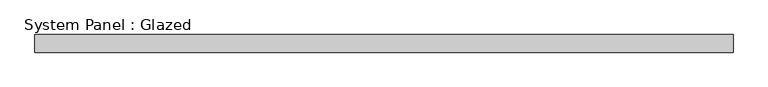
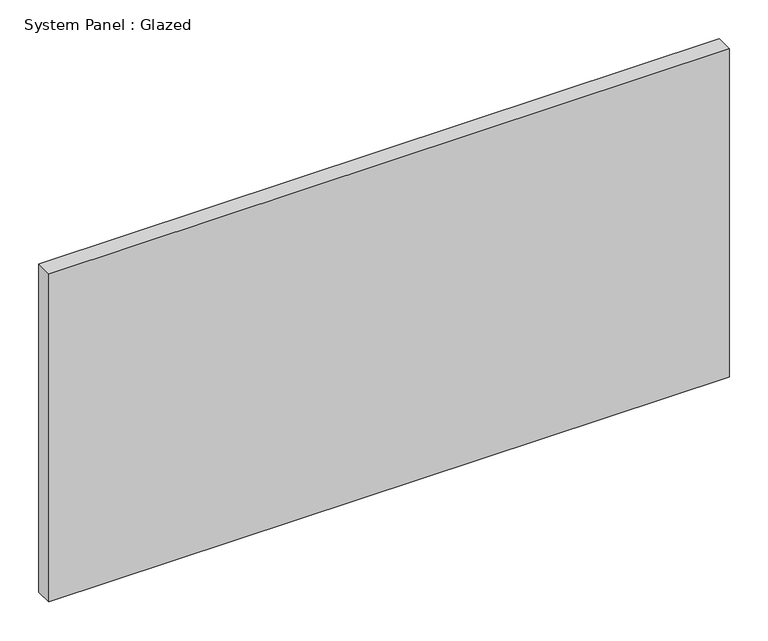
"""IFC4 building model written with IfcOpenShell, lengths in millimetres: plate geometry, System Panel : Glazed."""

from ifc_helpers import new_model, si_unit, origin, origin_with_axes, place, context, project, spatial, polyline, outline, extrude, source, transform, mapped, element, save


def system_panel_glazed_cd3e6447(model_context):
    return source(origin(), model_context, "Body", "SweptSolid", [
        extrude(outline(polyline([(503.9089253, -44.45), (-503.9089253, -44.45), (-503.9089253, -19.05), (503.9089253, -19.05), (503.9089253, -44.45)])), origin_with_axes(), (0.0, 0.0, 1.0), 514.35),
    ])


if __name__ == "__main__":
    model = new_model("IFC4")
    model_context = context("Model", 3, world=origin())
    ifc_project = project(units=[si_unit("LENGTHUNIT", "METRE", prefix="MILLI")], contexts=[model_context])
    site = spatial("IfcSite", under=ifc_project)
    building = spatial("IfcBuilding", under=site)
    placement = place(None, origin())
    system_panel_glazed_shape = system_panel_glazed_cd3e6447(model_context)
    element("IfcPlate", 1, ObjectType="System Panel : Glazed", at=placement, inside=building, context=model_context, shape_type="MappedRepresentation", body=[
        mapped(system_panel_glazed_shape, transform((0.0, 0.0, 0.0), x_axis=(1.0, 0.0, 0.0), y_axis=(0.0, 1.0, 0.0), z_axis=(0.0, 0.0, 1.0))),
    ])
    save(model, "model.ifc")
